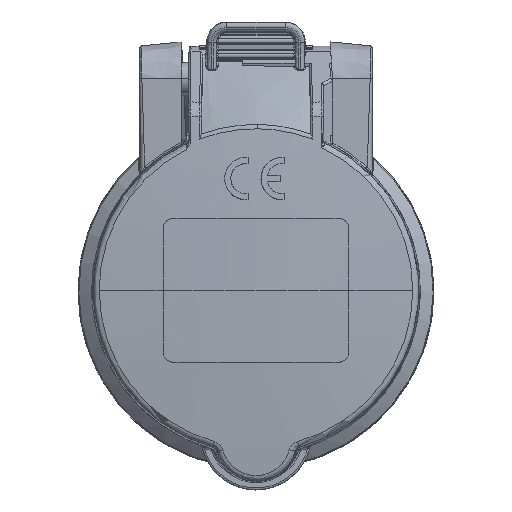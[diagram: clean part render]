
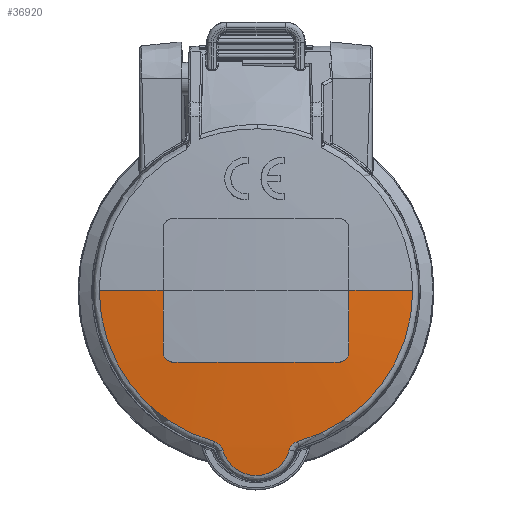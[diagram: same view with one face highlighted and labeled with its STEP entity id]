
A CAD part, top view. The second image highlights one B-rep face of the part: STEP entity #36920.
In plain terms, the highlighted spherical face has radius 250 mm.
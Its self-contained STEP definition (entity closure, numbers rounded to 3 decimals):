
#1735=CARTESIAN_POINT('',(-14.25,0.,-195.843));
#1736=DIRECTION('',(-1.,0.,0.));
#1737=DIRECTION('',(0.,-0.038,0.999));
#1738=AXIS2_PLACEMENT_3D('',#1735,#1736,#1737);
#1740=CARTESIAN_POINT('',(-12.75,-11.,53.59));
#1741=CARTESIAN_POINT('',(-12.881,-11.,53.583));
#1742=CARTESIAN_POINT('',(-13.143,-10.965,
53.571));
#1743=CARTESIAN_POINT('',(-13.509,-10.814,
53.558));
#1744=CARTESIAN_POINT('',(-13.823,-10.573,
53.551));
#1745=CARTESIAN_POINT('',(-14.064,-10.258,
53.551));
#1746=CARTESIAN_POINT('',(-14.216,-9.893,
53.557));
#1747=CARTESIAN_POINT('',(-14.25,-9.631,53.565));
#1748=CARTESIAN_POINT('',(-14.25,-9.5,53.57));
#1750=CARTESIAN_POINT('',(0.,-11.,-195.843));
#1751=DIRECTION('',(0.,-1.,0.));
#1752=DIRECTION('',(0.051,0.,0.999));
#1753=AXIS2_PLACEMENT_3D('',#1750,#1751,#1752);
#1755=CARTESIAN_POINT('',(14.25,-9.5,53.57));
#1756=CARTESIAN_POINT('',(14.25,-9.631,53.565));
#1757=CARTESIAN_POINT('',(14.216,-9.893,53.557));
#1758=CARTESIAN_POINT('',(14.064,-10.258,53.551));
#1759=CARTESIAN_POINT('',(13.823,-10.573,53.551));
#1760=CARTESIAN_POINT('',(13.509,-10.814,53.558));
#1761=CARTESIAN_POINT('',(13.143,-10.965,53.571));
#1762=CARTESIAN_POINT('',(12.881,-11.,53.583));
#1763=CARTESIAN_POINT('',(12.75,-11.,53.59));
#1765=CARTESIAN_POINT('',(14.25,0.,-195.843));
#1766=DIRECTION('',(1.,0.,0.));
#1767=DIRECTION('',(0.,0.,1.));
#1768=AXIS2_PLACEMENT_3D('',#1765,#1766,#1767);
#1770=CARTESIAN_POINT('',(0.,0.,-195.843));
#1771=DIRECTION('',(0.,-1.,0.));
#1772=DIRECTION('',(0.096,0.,0.995));
#1773=AXIS2_PLACEMENT_3D('',#1770,#1771,#1772);
#1775=CARTESIAN_POINT('',(0.,0.,52.997));
#1776=DIRECTION('',(0.,0.,1.));
#1777=DIRECTION('',(0.265,-0.964,0.));
#1778=AXIS2_PLACEMENT_3D('',#1775,#1776,#1777);
#1780=CARTESIAN_POINT('',(5.101,-24.472,52.904));
#1781=CARTESIAN_POINT('',(5.143,-24.316,52.919));
#1782=CARTESIAN_POINT('',(5.263,-24.028,52.944));
#1783=CARTESIAN_POINT('',(5.551,-23.649,52.974));
#1784=CARTESIAN_POINT('',(5.93,-23.359,52.993));
#1785=CARTESIAN_POINT('',(6.212,-23.241,52.997));
#1786=CARTESIAN_POINT('',(6.364,-23.199,52.997));
#1788=CARTESIAN_POINT('',(-5.101,-24.472,
52.904));
#1789=CARTESIAN_POINT('',(-5.008,-24.82,
52.872));
#1790=CARTESIAN_POINT('',(-4.756,-25.484,
52.81));
#1791=CARTESIAN_POINT('',(-4.182,-26.392,
52.726));
#1792=CARTESIAN_POINT('',(-3.44,-27.162,
52.654));
#1793=CARTESIAN_POINT('',(-2.56,-27.769,
52.598));
#1794=CARTESIAN_POINT('',(-1.578,-28.186,
52.559));
#1795=CARTESIAN_POINT('',(-0.532,-28.399,
52.539));
#1796=CARTESIAN_POINT('',(0.534,-28.399,
52.539));
#1797=CARTESIAN_POINT('',(1.58,-28.185,52.559));
#1798=CARTESIAN_POINT('',(2.562,-27.767,52.598));
#1799=CARTESIAN_POINT('',(3.442,-27.161,52.654));
#1800=CARTESIAN_POINT('',(4.184,-26.389,52.726));
#1801=CARTESIAN_POINT('',(4.757,-25.482,52.811));
#1802=CARTESIAN_POINT('',(5.009,-24.819,52.872));
#1803=CARTESIAN_POINT('',(5.101,-24.472,52.904));
#1805=CARTESIAN_POINT('',(-6.364,-23.199,
52.997));
#1806=CARTESIAN_POINT('',(-6.21,-23.242,
52.997));
#1807=CARTESIAN_POINT('',(-5.926,-23.362,
52.993));
#1808=CARTESIAN_POINT('',(-5.55,-23.651,
52.974));
#1809=CARTESIAN_POINT('',(-5.263,-24.028,
52.944));
#1810=CARTESIAN_POINT('',(-5.143,-24.316,
52.919));
#1811=CARTESIAN_POINT('',(-5.101,-24.472,
52.904));
#1813=CARTESIAN_POINT('',(0.,0.,52.997));
#1814=DIRECTION('',(0.,0.,1.));
#1815=DIRECTION('',(-1.,0.,0.));
#1816=AXIS2_PLACEMENT_3D('',#1813,#1814,#1815);
#1818=CARTESIAN_POINT('',(0.,0.,-195.843));
#1819=DIRECTION('',(0.,1.,0.));
#1820=DIRECTION('',(-0.096,0.,0.995));
#1821=AXIS2_PLACEMENT_3D('',#1818,#1819,#1820);
#30842=CARTESIAN_POINT('',(-14.25,-9.5,53.57));
#30844=VERTEX_POINT('',#30842);
#30846=CARTESIAN_POINT('',(-12.75,-11.,53.59));
#30848=VERTEX_POINT('',#30846);
#30850=CARTESIAN_POINT('',(12.75,-11.,53.59));
#30852=VERTEX_POINT('',#30850);
#30854=CARTESIAN_POINT('',(14.25,-9.5,53.57));
#30856=VERTEX_POINT('',#30854);
#30952=CARTESIAN_POINT('',(6.364,-23.199,
52.997));
#30953=CARTESIAN_POINT('',(24.057,0.,52.997));
#30954=VERTEX_POINT('',#30952);
#30955=VERTEX_POINT('',#30953);
#30956=VERTEX_POINT('',#1780);
#30959=VERTEX_POINT('',#1788);
#30961=VERTEX_POINT('',#1805);
#30963=CARTESIAN_POINT('',(-24.057,0.,52.997));
#30964=VERTEX_POINT('',#30963);
#30975=CARTESIAN_POINT('',(-14.25,0.,53.751));
#30976=VERTEX_POINT('',#30975);
#30977=CARTESIAN_POINT('',(14.25,0.,53.751));
#30978=VERTEX_POINT('',#30977);
#36891=CARTESIAN_POINT('',(0.,0.,-195.843));
#36892=DIRECTION('',(0.,0.,-1.));
#36893=DIRECTION('',(1.,0.,0.));
#36894=AXIS2_PLACEMENT_3D('',#36891,#36892,#36893);
#36895=SPHERICAL_SURFACE('491',#36894,250.);
#36897=ORIENTED_EDGE('2888',*,*,#36896,.F.);
#36899=ORIENTED_EDGE('2889',*,*,#36898,.F.);
#36901=ORIENTED_EDGE('2890',*,*,#36900,.F.);
#36903=ORIENTED_EDGE('2891',*,*,#36902,.F.);
#36905=ORIENTED_EDGE('2892',*,*,#36904,.F.);
#36907=ORIENTED_EDGE('2894',*,*,#36906,.F.);
#36908=ORIENTED_EDGE('2858',*,*,#36829,.F.);
#36909=ORIENTED_EDGE('2859',*,*,#36874,.F.);
#36911=ORIENTED_EDGE('2861',*,*,#36910,.F.);
#36913=ORIENTED_EDGE('2863',*,*,#36912,.F.);
#36915=ORIENTED_EDGE('2865',*,*,#36914,.F.);
#36917=ORIENTED_EDGE('2893',*,*,#36916,.T.);
#36918=EDGE_LOOP('491',(#36897,#36899,#36901,#36903,#36905,#36907,#36908,#36909,
#36911,#36913,#36915,#36917));
#36919=FACE_OUTER_BOUND('491',#36918,.F.);
#1739=CIRCLE('2888',#1738,249.594);
#1749=B_SPLINE_CURVE_WITH_KNOTS('2889',3,(#1740,#1741,#1742,#1743,#1744,#1745,
#1746,#1747,#1748),.UNSPECIFIED.,.F.,.F.,(4,1,1,1,1,1,4),(0.,
0.167,0.333,0.5,0.667,0.833,
1.),.UNSPECIFIED.);
#1754=CIRCLE('2890',#1753,249.758);
#1764=B_SPLINE_CURVE_WITH_KNOTS('2891',3,(#1755,#1756,#1757,#1758,#1759,#1760,
#1761,#1762,#1763),.UNSPECIFIED.,.F.,.F.,(4,1,1,1,1,1,4),(0.,
0.167,0.333,0.5,0.667,0.833,
1.),.UNSPECIFIED.);
#1769=CIRCLE('2892',#1768,249.594);
#1774=CIRCLE('2894',#1773,250.);
#1779=CIRCLE('2858',#1778,24.057);
#1787=B_SPLINE_CURVE_WITH_KNOTS('2859',3,(#1780,#1781,#1782,#1783,#1784,#1785,
#1786),.UNSPECIFIED.,.F.,.F.,(4,1,1,1,4),(0.,0.25,0.5,0.75,1.),
.UNSPECIFIED.);
#1804=B_SPLINE_CURVE_WITH_KNOTS('2861',3,(#1788,#1789,#1790,#1791,#1792,#1793,
#1794,#1795,#1796,#1797,#1798,#1799,#1800,#1801,#1802,#1803),.UNSPECIFIED.,.F.,
.F.,(4,1,1,1,1,1,1,1,1,1,1,1,1,4),(0.,0.077,0.154,
0.231,0.308,0.385,0.462,
0.538,0.615,0.692,0.769,
0.846,0.923,1.),.UNSPECIFIED.);
#1812=B_SPLINE_CURVE_WITH_KNOTS('2863',3,(#1805,#1806,#1807,#1808,#1809,#1810,
#1811),.UNSPECIFIED.,.F.,.F.,(4,1,1,1,4),(0.,0.25,0.5,0.75,1.),
.UNSPECIFIED.);
#1817=CIRCLE('2865',#1816,24.057);
#1822=CIRCLE('2893',#1821,250.);
#36829=EDGE_CURVE('2858',#30954,#30955,#1779,.T.);
#36874=EDGE_CURVE('2859',#30956,#30954,#1787,.T.);
#36896=EDGE_CURVE('2888',#30844,#30976,#1739,.T.);
#36898=EDGE_CURVE('2889',#30848,#30844,#1749,.T.);
#36900=EDGE_CURVE('2890',#30852,#30848,#1754,.T.);
#36902=EDGE_CURVE('2891',#30856,#30852,#1764,.T.);
#36904=EDGE_CURVE('2892',#30978,#30856,#1769,.T.);
#36906=EDGE_CURVE('2894',#30955,#30978,#1774,.T.);
#36910=EDGE_CURVE('2861',#30959,#30956,#1804,.T.);
#36912=EDGE_CURVE('2863',#30961,#30959,#1812,.T.);
#36914=EDGE_CURVE('2865',#30964,#30961,#1817,.T.);
#36916=EDGE_CURVE('2893',#30964,#30976,#1822,.T.);
#36920=ADVANCED_FACE('491',(#36919),#36895,.T.);
